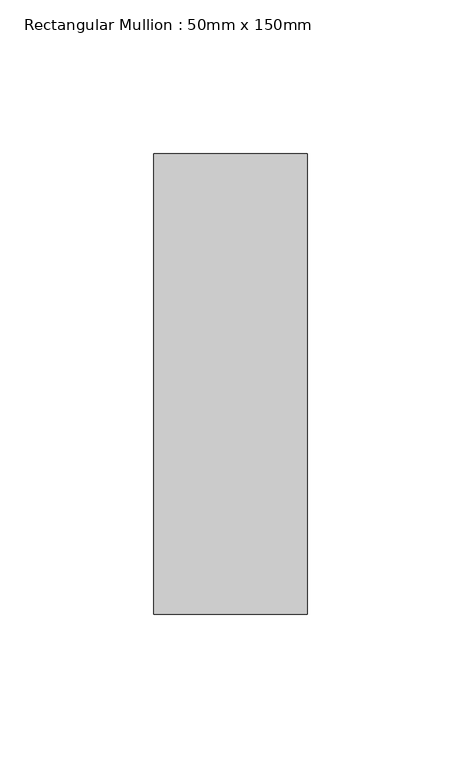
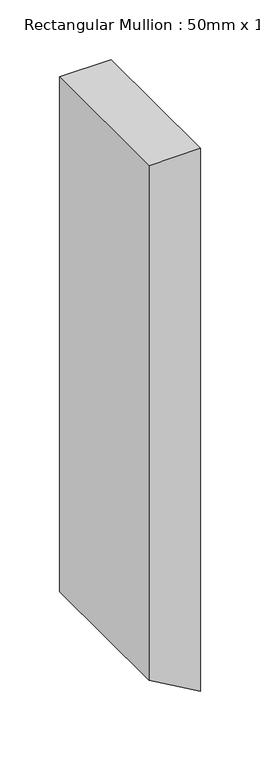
"""IFC4 building model written with IfcOpenShell, lengths in millimetres: member geometry, Rectangular Mullion : 50mm x 150mm."""

from ifc_helpers import new_model, si_unit, frame, origin, place, context, project, spatial, polyline, outline, extrude, source, transform, mapped, element, save


def rectangular_mullion_50mm_x_150mm_ad13ef8d(model_context):
    return source(origin(), model_context, "Body", "SweptSolid", [
        extrude(outline(polyline([(0.0, 0.0), (0.0, -50.0), (-527.3752009, -50.0), (-555.9615727, 0.0), (0.0, 0.0)])), frame((0.0, -75.0, 0.0), z_axis=(0.0, 1.0, 0.0), x_axis=(0.0, 0.0, 1.0)), (0.0, 0.0, 1.0), 150.0),
    ])


if __name__ == "__main__":
    model = new_model("IFC4")
    model_context = context("Model", 3, world=origin())
    ifc_project = project(units=[si_unit("LENGTHUNIT", "METRE", prefix="MILLI")], contexts=[model_context])
    site = spatial("IfcSite", under=ifc_project)
    building = spatial("IfcBuilding", under=site)
    placement = place(None, origin())
    rectangular_mullion_50mm_x_150mm_shape = rectangular_mullion_50mm_x_150mm_ad13ef8d(model_context)
    element("IfcMember", 1, ObjectType="Rectangular Mullion : 50mm x 150mm", at=placement, inside=building, context=model_context, shape_type="MappedRepresentation", body=[
        mapped(rectangular_mullion_50mm_x_150mm_shape, transform((0.0, 0.0, 0.0), x_axis=(1.0, 0.0, 0.0), y_axis=(0.0, 1.0, 0.0), z_axis=(0.0, 0.0, 1.0))),
    ])
    save(model, "model.ifc")
